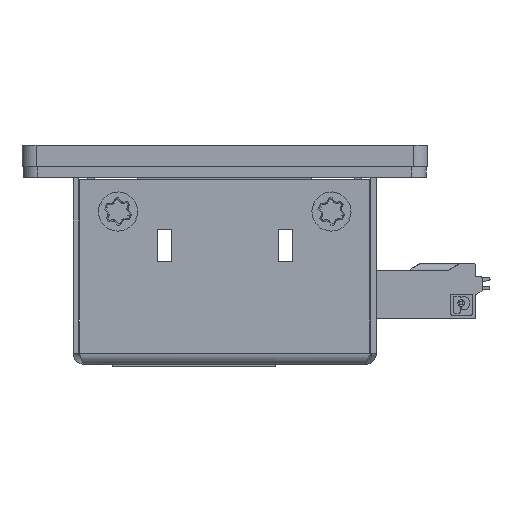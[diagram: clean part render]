
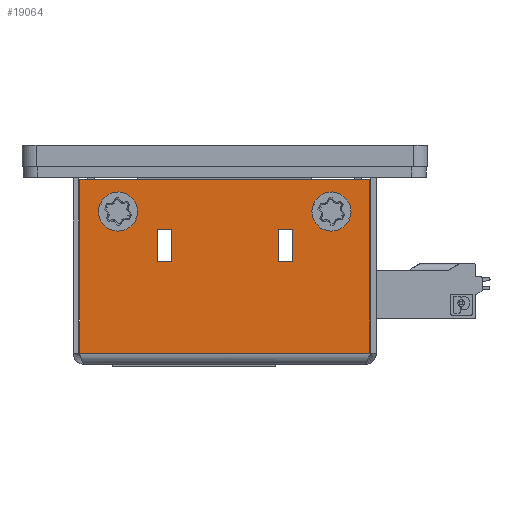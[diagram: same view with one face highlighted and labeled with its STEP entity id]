
A CAD part, left-side view. The second image highlights one B-rep face of the part: STEP entity #19064.
In plain terms, the highlighted planar face has unit normal (-1, 0, 0).
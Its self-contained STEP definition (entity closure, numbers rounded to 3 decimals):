
#1270 = AXIS2_PLACEMENT_3D ( 'NONE', #28339, #36620, #94293 ) ;
#2057 = CIRCLE ( 'NONE', #69173, 2.1 ) ;
#2238 = VERTEX_POINT ( 'NONE', #18124 ) ;
#2938 = CARTESIAN_POINT ( 'NONE',  ( -37.675, 0., 7.5 ) ) ;
#4467 = CARTESIAN_POINT ( 'NONE',  ( -37.675, -21.5, 12.9 ) ) ;
#5157 = CARTESIAN_POINT ( 'NONE',  ( -37.675, -19., 0. ) ) ;
#5510 = CARTESIAN_POINT ( 'NONE',  ( -37.675, -14.5, 7.5 ) ) ;
#5952 = VECTOR ( 'NONE', #60599, 1000. ) ;
#8229 = VERTEX_POINT ( 'NONE', #4467 ) ;
#8452 = LINE ( 'NONE', #90682, #27780 ) ;
#9418 = DIRECTION ( 'NONE',  ( 0., 1., 0. ) ) ;
#9582 = LINE ( 'NONE', #67100, #26294 ) ;
#9605 = FACE_BOUND ( 'NONE', #59413, .T. ) ;
#9972 = DIRECTION ( 'NONE',  ( 0., 0., 1. ) ) ;
#10035 = CIRCLE ( 'NONE', #77329, 2.1 ) ;
#10161 = ORIENTED_EDGE ( 'NONE', *, *, #67350, .T. ) ;
#10473 = ORIENTED_EDGE ( 'NONE', *, *, #61405, .T. ) ;
#12314 = LINE ( 'NONE', #92083, #99989 ) ;
#14332 = ORIENTED_EDGE ( 'NONE', *, *, #74477, .T. ) ;
#14857 = CARTESIAN_POINT ( 'NONE',  ( -37.675, -26., -20.4 ) ) ;
#14859 = CARTESIAN_POINT ( 'NONE',  ( -37.675, -19., -7.5 ) ) ;
#15341 = CARTESIAN_POINT ( 'NONE',  ( -37.675, -14.5, 0. ) ) ;
#16637 = LINE ( 'NONE', #47739, #99127 ) ;
#16890 = EDGE_LOOP ( 'NONE', ( #74801, #65923, #91031, #10161 ) ) ;
#18124 = CARTESIAN_POINT ( 'NONE',  ( -37.675, -21.5, -17.1 ) ) ;
#18443 = VERTEX_POINT ( 'NONE', #35342 ) ;
#19064 = ADVANCED_FACE ( 'NONE', ( #70179, #92065, #26317, #9605, #89486 ), #69454, .F. ) ;
#23090 = EDGE_CURVE ( 'NONE', #67213, #8229, #23755, .T. ) ;
#23755 = CIRCLE ( 'NONE', #78277, 2.1 ) ;
#26294 = VECTOR ( 'NONE', #9418, 1000. ) ;
#26317 = FACE_BOUND ( 'NONE', #97924, .T. ) ;
#27181 = CARTESIAN_POINT ( 'NONE',  ( -37.675, -21.5, -15. ) ) ;
#27780 = VECTOR ( 'NONE', #49593, 1000. ) ;
#28339 = CARTESIAN_POINT ( 'NONE',  ( -37.675, 0., 0. ) ) ;
#28649 = DIRECTION ( 'NONE',  ( 0., 0., -1. ) ) ;
#30613 = CARTESIAN_POINT ( 'NONE',  ( -37.675, -1.6, 0. ) ) ;
#31138 = CARTESIAN_POINT ( 'NONE',  ( -37.675, -14.5, -9.5 ) ) ;
#34317 = CARTESIAN_POINT ( 'NONE',  ( -37.675, 0., -7.5 ) ) ;
#35342 = CARTESIAN_POINT ( 'NONE',  ( -37.675, -21.5, -12.9 ) ) ;
#35385 = EDGE_CURVE ( 'NONE', #44815, #85183, #58714, .T. ) ;
#35455 = DIRECTION ( 'NONE',  ( 0., 1., 0. ) ) ;
#36416 = VERTEX_POINT ( 'NONE', #71053 ) ;
#36620 = DIRECTION ( 'NONE',  ( 1., 0., 0. ) ) ;
#36986 = VERTEX_POINT ( 'NONE', #45664 ) ;
#39214 = CARTESIAN_POINT ( 'NONE',  ( -37.675, -21.5, -15. ) ) ;
#39213 = CARTESIAN_POINT ( 'NONE',  ( -37.675, -21.5, 17.1 ) ) ;
#42279 = DIRECTION ( 'NONE',  ( 0., -1., 0. ) ) ;
#43484 = LINE ( 'NONE', #83369, #62878 ) ;
#44216 = LINE ( 'NONE', #30613, #85490 ) ;
#44815 = VERTEX_POINT ( 'NONE', #88929 ) ;
#44822 = DIRECTION ( 'NONE',  ( 1., 0., 0. ) ) ;
#45206 = CARTESIAN_POINT ( 'NONE',  ( -37.675, -19., 0. ) ) ;
#45664 = CARTESIAN_POINT ( 'NONE',  ( -37.675, -14.5, -7.5 ) ) ;
#46479 = ORIENTED_EDGE ( 'NONE', *, *, #67235, .T. ) ;
#47446 = DIRECTION ( 'NONE',  ( 0., 1., 0. ) ) ;
#47739 = CARTESIAN_POINT ( 'NONE',  ( -37.675, -14.5, 0. ) ) ;
#47819 = CARTESIAN_POINT ( 'NONE',  ( -37.675, -1.6, -20.4 ) ) ;
#48076 = DIRECTION ( 'NONE',  ( 0., 0., 1. ) ) ;
#48166 = DIRECTION ( 'NONE',  ( 1., 0., 0. ) ) ;
#48494 = CARTESIAN_POINT ( 'NONE',  ( -37.675, 0., 9.5 ) ) ;
#49593 = DIRECTION ( 'NONE',  ( 0., -1., 0. ) ) ;
#52482 = VECTOR ( 'NONE', #54535, 1000. ) ;
#53839 = ORIENTED_EDGE ( 'NONE', *, *, #23090, .T. ) ;
#53968 = ORIENTED_EDGE ( 'NONE', *, *, #66038, .T. ) ;
#54535 = DIRECTION ( 'NONE',  ( 0., 0., -1. ) ) ;
#55535 = DIRECTION ( 'NONE',  ( 0., 0., 1. ) ) ;
#56857 = DIRECTION ( 'NONE',  ( 0., -1., 0. ) ) ;
#57152 = ORIENTED_EDGE ( 'NONE', *, *, #65524, .T. ) ;
#58714 = LINE ( 'NONE', #48494, #99992 ) ;
#59413 = EDGE_LOOP ( 'NONE', ( #14332, #70826, #53968, #69445 ) ) ;
#60257 = LINE ( 'NONE', #5157, #52482 ) ;
#60470 = EDGE_CURVE ( 'NONE', #93057, #97541, #93640, .T. ) ;
#60599 = DIRECTION ( 'NONE',  ( 0., 1., 0. ) ) ;
#61405 = EDGE_CURVE ( 'NONE', #99891, #36986, #86353, .T. ) ;
#61794 = EDGE_LOOP ( 'NONE', ( #57152, #95354 ) ) ;
#62878 = VECTOR ( 'NONE', #42279, 1000. ) ;
#63642 = EDGE_CURVE ( 'NONE', #36416, #99891, #9582, .T. ) ;
#64181 = CARTESIAN_POINT ( 'NONE',  ( -37.675, -1.6, 20.4 ) ) ;
#64358 = DIRECTION ( 'NONE',  ( 0., 0., 1. ) ) ;
#65524 = EDGE_CURVE ( 'NONE', #2238, #18443, #100713, .T. ) ;
#65584 = VERTEX_POINT ( 'NONE', #47819 ) ;
#65923 = ORIENTED_EDGE ( 'NONE', *, *, #94747, .F. ) ;
#66038 = EDGE_CURVE ( 'NONE', #97541, #44815, #16637, .T. ) ;
#67100 = CARTESIAN_POINT ( 'NONE',  ( -37.675, 0., -9.5 ) ) ;
#67213 = VERTEX_POINT ( 'NONE', #39213 ) ;
#67235 = EDGE_CURVE ( 'NONE', #8229, #67213, #2057, .T. ) ;
#67350 = EDGE_CURVE ( 'NONE', #65584, #95166, #8452, .T. ) ;
#67473 = EDGE_CURVE ( 'NONE', #95166, #90948, #12314, .T. ) ;
#68374 = EDGE_CURVE ( 'NONE', #65584, #81623, #44216, .T. ) ;
#69173 = AXIS2_PLACEMENT_3D ( 'NONE', #97571, #48166, #105868 ) ;
#69445 = ORIENTED_EDGE ( 'NONE', *, *, #35385, .T. ) ;
#69454 = PLANE ( 'NONE',  #1270 ) ;
#70179 = FACE_BOUND ( 'NONE', #81192, .T. ) ;
#70826 = ORIENTED_EDGE ( 'NONE', *, *, #60470, .T. ) ;
#71053 = CARTESIAN_POINT ( 'NONE',  ( -37.675, -19., -9.5 ) ) ;
#72080 = EDGE_CURVE ( 'NONE', #91376, #36416, #102243, .T. ) ;
#72127 = VECTOR ( 'NONE', #83677, 1000. ) ;
#74271 = EDGE_CURVE ( 'NONE', #18443, #2238, #10035, .T. ) ;
#74477 = EDGE_CURVE ( 'NONE', #85183, #93057, #60257, .T. ) ;
#74721 = LINE ( 'NONE', #34317, #72127 ) ;
#74801 = ORIENTED_EDGE ( 'NONE', *, *, #67473, .T. ) ;
#75926 = ORIENTED_EDGE ( 'NONE', *, *, #84452, .T. ) ;
#77329 = AXIS2_PLACEMENT_3D ( 'NONE', #27181, #84808, #35455 ) ;
#78277 = AXIS2_PLACEMENT_3D ( 'NONE', #94201, #44822, #102506 ) ;
#80831 = CARTESIAN_POINT ( 'NONE',  ( -37.675, -19., 7.5 ) ) ;
#81192 = EDGE_LOOP ( 'NONE', ( #46479, #53839 ) ) ;
#81623 = VERTEX_POINT ( 'NONE', #64181 ) ;
#83369 = CARTESIAN_POINT ( 'NONE',  ( -37.675, -1.6, 20.4 ) ) ;
#83677 = DIRECTION ( 'NONE',  ( 0., -1., 0. ) ) ;
#83775 = VECTOR ( 'NONE', #48076, 1000. ) ;
#84452 = EDGE_CURVE ( 'NONE', #36986, #91376, #74721, .T. ) ;
#84808 = DIRECTION ( 'NONE',  ( 1., 0., 0. ) ) ;
#85183 = VERTEX_POINT ( 'NONE', #93258 ) ;
#85490 = VECTOR ( 'NONE', #55535, 1000. ) ;
#86127 = AXIS2_PLACEMENT_3D ( 'NONE', #39214, #96867, #47446 ) ;
#86353 = LINE ( 'NONE', #15341, #83775 ) ;
#88929 = CARTESIAN_POINT ( 'NONE',  ( -37.675, -14.5, 9.5 ) ) ;
#89486 = FACE_OUTER_BOUND ( 'NONE', #16890, .T. ) ;
#90682 = CARTESIAN_POINT ( 'NONE',  ( -37.675, -1.6, -20.4 ) ) ;
#90948 = VERTEX_POINT ( 'NONE', #99979 ) ;
#91031 = ORIENTED_EDGE ( 'NONE', *, *, #68374, .F. ) ;
#91376 = VERTEX_POINT ( 'NONE', #14859 ) ;
#92065 = FACE_BOUND ( 'NONE', #61794, .T. ) ;
#92083 = CARTESIAN_POINT ( 'NONE',  ( -37.675, -26., 20.5 ) ) ;
#93057 = VERTEX_POINT ( 'NONE', #80831 ) ;
#93258 = CARTESIAN_POINT ( 'NONE',  ( -37.675, -19., 9.5 ) ) ;
#93640 = LINE ( 'NONE', #2938, #5952 ) ;
#94201 = CARTESIAN_POINT ( 'NONE',  ( -37.675, -21.5, 15. ) ) ;
#94293 = DIRECTION ( 'NONE',  ( 0., 1., 0. ) ) ;
#94747 = EDGE_CURVE ( 'NONE', #81623, #90948, #43484, .T. ) ;
#95166 = VERTEX_POINT ( 'NONE', #14857 ) ;
#95354 = ORIENTED_EDGE ( 'NONE', *, *, #74271, .T. ) ;
#96867 = DIRECTION ( 'NONE',  ( 1., 0., 0. ) ) ;
#97541 = VERTEX_POINT ( 'NONE', #5510 ) ;
#97571 = CARTESIAN_POINT ( 'NONE',  ( -37.675, -21.5, 15. ) ) ;
#97924 = EDGE_LOOP ( 'NONE', ( #103904, #104186, #10473, #75926 ) ) ;
#99127 = VECTOR ( 'NONE', #64358, 1000. ) ;
#99679 = VECTOR ( 'NONE', #28649, 1000. ) ;
#99891 = VERTEX_POINT ( 'NONE', #31138 ) ;
#99979 = CARTESIAN_POINT ( 'NONE',  ( -37.675, -26., 20.4 ) ) ;
#99989 = VECTOR ( 'NONE', #9972, 1000. ) ;
#99992 = VECTOR ( 'NONE', #56857, 1000. ) ;
#100713 = CIRCLE ( 'NONE', #86127, 2.1 ) ;
#102243 = LINE ( 'NONE', #45206, #99679 ) ;
#102506 = DIRECTION ( 'NONE',  ( 0., 1., 0. ) ) ;
#103904 = ORIENTED_EDGE ( 'NONE', *, *, #72080, .T. ) ;
#104186 = ORIENTED_EDGE ( 'NONE', *, *, #63642, .T. ) ;
#105868 = DIRECTION ( 'NONE',  ( 0., 1., 0. ) ) ;
